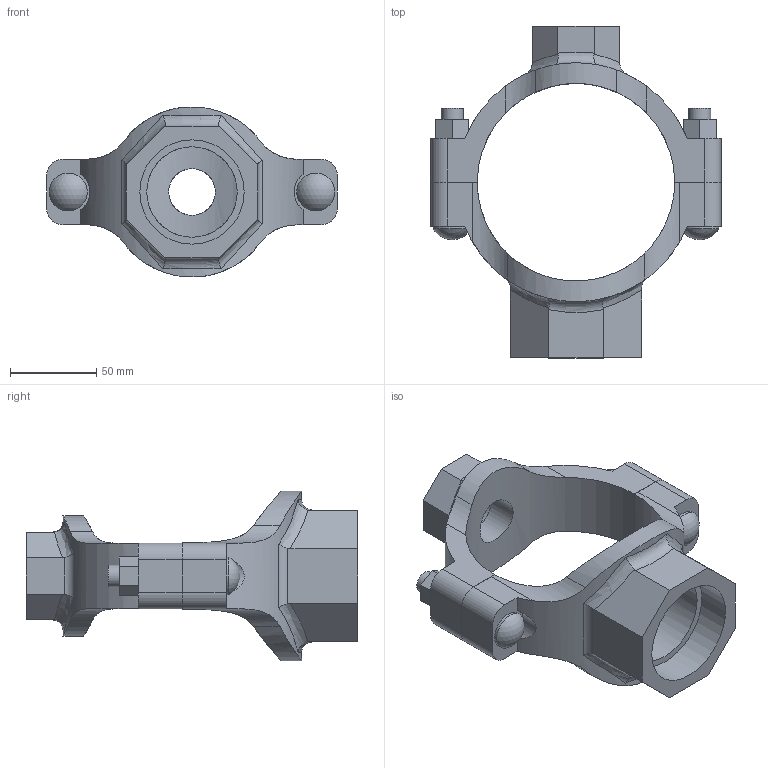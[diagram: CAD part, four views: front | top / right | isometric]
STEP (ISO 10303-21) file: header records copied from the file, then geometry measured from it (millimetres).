
FILE_DESCRIPTION(/* description */ ('VIC MECH-T BRANCH OUTLET CROSS STYLE 920N (THD)','CAx-IF Rec.Pracs.---Representation and Presentation of Product Manufacturing Information (PMI)---4.0---2014-10-13'),/* implementation_level */ '2;1');
FILE_NAME(/* name */ 'C:\Users\Vjadhav\AppData\Roaming\Autodesk\ApplicationPlugins\Back Up\Victaulic_IPS_Mechanical-Cross Outlet_Style 920N (FPT)\Victaulic_IPS_Mechanical-Cross Outlet_04.0x01.0x02.0 (100x25x50).stp',/* time_stamp */ '2020-08-06T18:58:25+05:00',/* author */ ('Vjadhav'),/* organization */ ('Victaulic'),/* preprocessor_version */ 'ST-DEVELOPER v17.2',/* originating_system */ 'Autodesk Inventor 2019',/* authorisation */ '');
FILE_SCHEMA (('AP242_MANAGED_MODEL_BASED_3D_ENGINEERING_MIM_LF { 1 0 10303 442 1 1 4 }'));
Length unit declared in the file: inch
Products named in the file (3): 920NT-04.0x01.0x02.0; 920NT-04.0x01.0; 920NT-04.0x02.0
Assembly tree (2 placements, depth 2):
  920NT-04.0x01.0x02.0
    920NT-04.0x01.0
    920NT-04.0x02.0
Bounding box: 168.4 x 192.02 x 98.37 mm (x, y, z)
Volume: 394540 mm3; surface area: 92884.5 mm2
Topology: 2 solids, 2 shells, 132 faces, 350 edges, 236 vertices
Faces by surface type: plane 68, cylinder 50, bspline 8, torus 4, sphere 2
Full cylindrical faces by diameter (mm): 12.7 x4, 21.982 x2, 26.987 x1, 33.401 x1, 52.387 x1, 60.325 x1
Entity records: 5300 total; most frequent: CARTESIAN_POINT 1787, ORIENTED_EDGE 700, DIRECTION 648, EDGE_CURVE 350, VERTEX_POINT 236, AXIS2_PLACEMENT_3D 231, LINE 186, VECTOR 186
